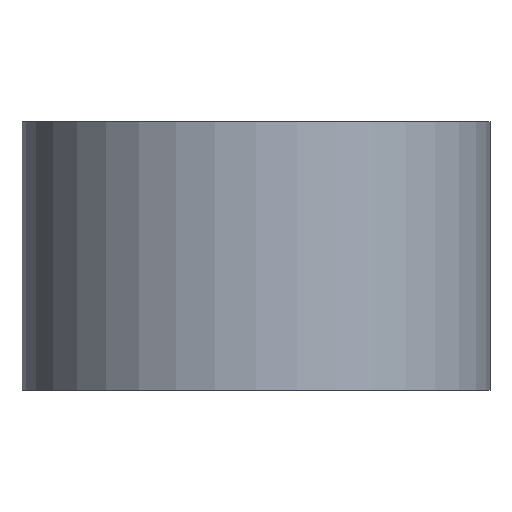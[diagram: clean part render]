
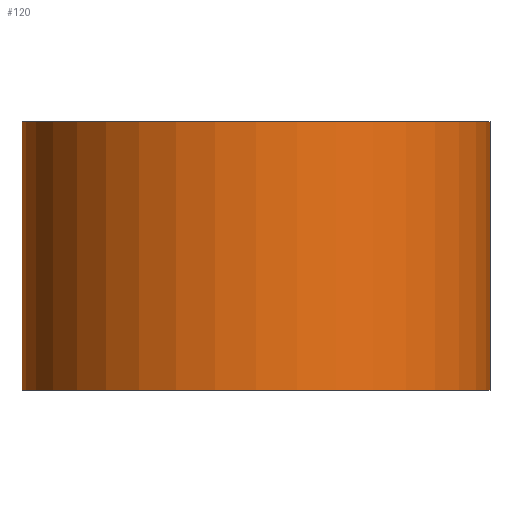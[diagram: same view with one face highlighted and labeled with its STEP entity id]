
A CAD part, front view. The second image highlights one B-rep face of the part: STEP entity #120.
In plain terms, the highlighted cylindrical face has radius 101 mm (diameter 202 mm), a partial arc.
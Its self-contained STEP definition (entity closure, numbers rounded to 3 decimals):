
#64=CARTESIAN_POINT('Axis2P3D Location',(0.,0.,58.)) ;
#69=CARTESIAN_POINT('Line Origine',(101.,0.,58.)) ;
#73=CARTESIAN_POINT('Vertex',(101.,0.,0.)) ;
#75=CARTESIAN_POINT('Vertex',(101.,0.,116.)) ;
#82=CARTESIAN_POINT('Vertex',(-101.,0.,0.)) ;
#85=CARTESIAN_POINT('Line Origine',(-101.,0.,58.)) ;
#89=CARTESIAN_POINT('Vertex',(-101.,0.,116.)) ;
#104=CARTESIAN_POINT('Axis2P3D Location',(0.,0.,0.)) ;
#109=CARTESIAN_POINT('Axis2P3D Location',(0.,0.,116.)) ;
#65=DIRECTION('Axis2P3D Direction',(0.,0.,1.)) ;
#66=DIRECTION('Axis2P3D XDirection',(1.,0.,0.)) ;
#70=DIRECTION('Vector Direction',(0.,0.,1.)) ;
#86=DIRECTION('Vector Direction',(0.,0.,1.)) ;
#105=DIRECTION('Axis2P3D Direction',(0.,0.,1.)) ;
#110=DIRECTION('Axis2P3D Direction',(0.,0.,1.)) ;
#67=AXIS2_PLACEMENT_3D('Cylinder Axis2P3D',#64,#65,#66) ;
#106=AXIS2_PLACEMENT_3D('Circle Axis2P3D',#104,#105,$) ;
#111=AXIS2_PLACEMENT_3D('Circle Axis2P3D',#109,#110,$) ;
#115=ORIENTED_EDGE('',*,*,#91,.F.) ;
#116=ORIENTED_EDGE('',*,*,#108,.T.) ;
#117=ORIENTED_EDGE('',*,*,#77,.T.) ;
#118=ORIENTED_EDGE('',*,*,#113,.F.) ;
#71=VECTOR('Line Direction',#70,1.) ;
#87=VECTOR('Line Direction',#86,1.) ;
#120=ADVANCED_FACE('PartBody',(#119),#68,.T.) ;
#107=CIRCLE('generated circle',#106,101.) ;
#112=CIRCLE('generated circle',#111,101.) ;
#68=CYLINDRICAL_SURFACE('generated cylinder',#67,101.) ;
#77=EDGE_CURVE('',#74,#76,#72,.T.) ;
#91=EDGE_CURVE('',#83,#90,#88,.T.) ;
#108=EDGE_CURVE('',#83,#74,#107,.T.) ;
#113=EDGE_CURVE('',#90,#76,#112,.T.) ;
#114=EDGE_LOOP('',(#115,#116,#117,#118)) ;
#119=FACE_OUTER_BOUND('',#114,.T.) ;
#72=LINE('Line',#69,#71) ;
#88=LINE('Line',#85,#87) ;
#74=VERTEX_POINT('',#73) ;
#76=VERTEX_POINT('',#75) ;
#83=VERTEX_POINT('',#82) ;
#90=VERTEX_POINT('',#89) ;
